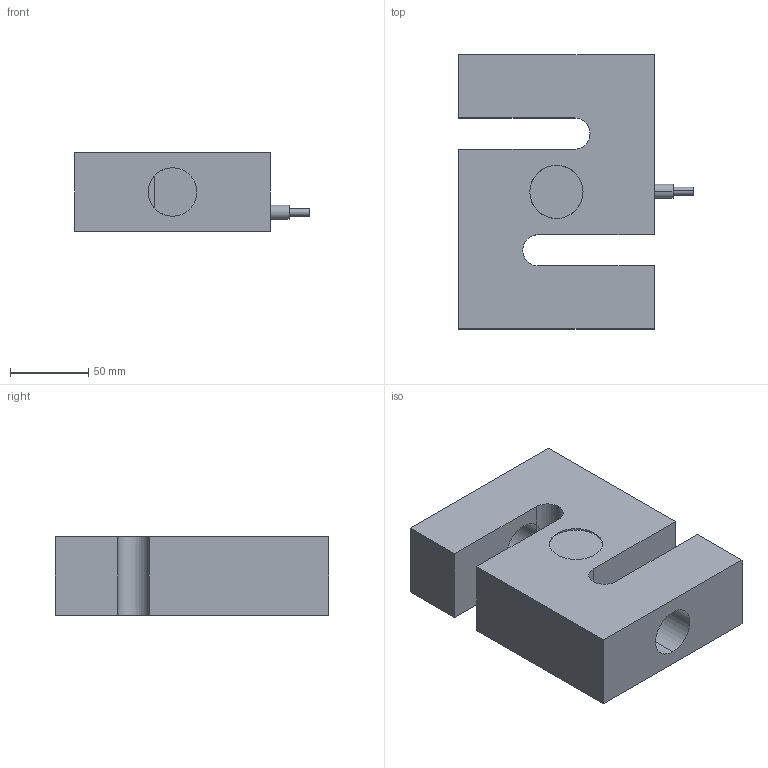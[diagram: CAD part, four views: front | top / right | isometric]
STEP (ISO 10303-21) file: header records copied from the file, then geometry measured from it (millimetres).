
FILE_DESCRIPTION (( 'STEP AP214' ), '1' );
FILE_NAME ('H3 7.5t.STEP', '2014-03-07T08:44:57', ( 'Gebruiker' ), ( '' ), 'SwSTEP 2.0', 'SolidWorks 2011', '' );
FILE_SCHEMA (( 'AUTOMOTIVE_DESIGN' ));
Length unit declared in the file: millimetre
Products named in the file (1): H3 7.5t
Bounding box: 150 x 175 x 50 mm (x, y, z)
Volume: 868561.5 mm3; surface area: 100012.1 mm2
Topology: 4 solids, 4 shells, 40 faces, 95 edges, 62 vertices
Faces by surface type: plane 21, cylinder 19
Entity records: 1686 total; most frequent: DIRECTION 219, CARTESIAN_POINT 198, ORIENTED_EDGE 190, EDGE_CURVE 95, AXIS2_PLACEMENT_3D 83, VERTEX_POINT 62, LINE 53, VECTOR 53
